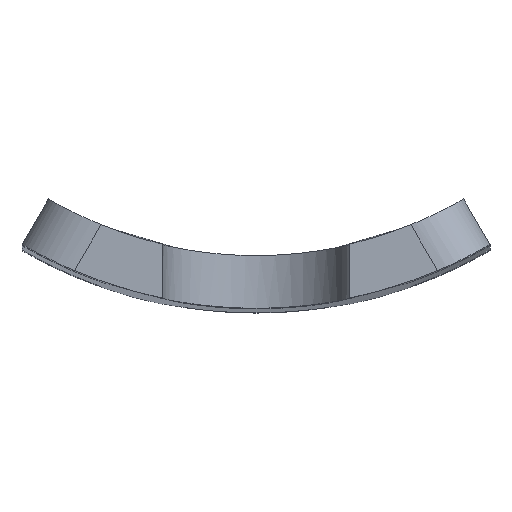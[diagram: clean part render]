
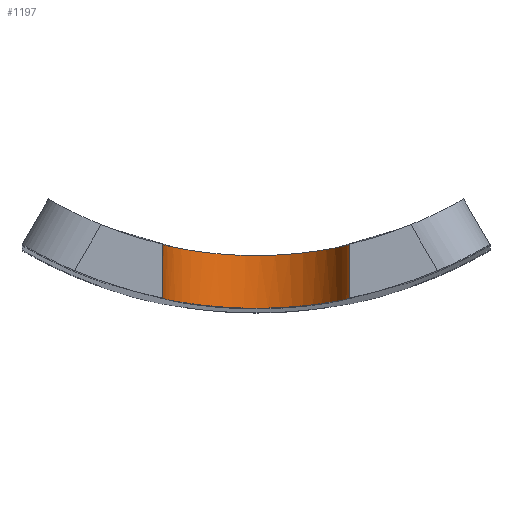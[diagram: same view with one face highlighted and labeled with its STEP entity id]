
A CAD part, top view. The second image highlights one B-rep face of the part: STEP entity #1197.
In plain terms, the highlighted cylindrical face has radius 16 mm (diameter 32 mm), a partial arc.
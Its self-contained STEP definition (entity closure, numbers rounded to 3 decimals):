
#149=FACE_OUTER_BOUND('',#213,.T.);
#213=EDGE_LOOP('',(#1098,#1099,#1100,#1101,#1102));
#300=LINE('',#2539,#386);
#301=LINE('',#2541,#387);
#386=VECTOR('',#1598,10.);
#387=VECTOR('',#1601,10.);
#411=B_SPLINE_CURVE_WITH_KNOTS('',3,(#1921,#1922,#1923,#1924,#1925,#1926,
#1927,#1928,#1929,#1930,#1931,#1932,#1933,#1934,#1935,#1936,#1937,#1938,
#1939,#1940,#1941,#1942,#1943,#1944,#1945,#1946,#1947,#1948,#1949,#1950,
#1951,#1952,#1953,#1954),.UNSPECIFIED.,.F.,.F.,(4,2,2,2,2,2,2,2,2,2,2,2,
2,2,2,2,4),(-4.84,-4.537,-4.235,-3.932,
-3.63,-3.327,-3.025,-2.722,
-2.42,-2.117,-1.815,-1.512,
-1.21,-0.908,-0.605,-0.303,
0.),.UNSPECIFIED.);
#435=B_SPLINE_CURVE_WITH_KNOTS('',3,(#2361,#2362,#2363,#2364,#2365,#2366,
#2367,#2368,#2369,#2370,#2371,#2372,#2373,#2374,#2375,#2376,#2377,#2378),
 .UNSPECIFIED.,.F.,.F.,(4,2,2,2,2,2,2,2,4),(0.,0.302,0.604,
0.907,1.209,1.511,1.813,2.116,
2.418),.UNSPECIFIED.);
#436=B_SPLINE_CURVE_WITH_KNOTS('',3,(#2380,#2381,#2382,#2383,#2384,#2385,
#2386,#2387,#2388,#2389,#2390,#2391,#2392,#2393,#2394,#2395,#2396,#2397),
 .UNSPECIFIED.,.F.,.F.,(4,2,2,2,2,2,2,2,4),(2.418,2.72,
3.022,3.325,3.627,3.929,4.231,
4.534,4.836),.UNSPECIFIED.);
#502=VERTEX_POINT('',#1918);
#503=VERTEX_POINT('',#1920);
#555=VERTEX_POINT('',#2358);
#556=VERTEX_POINT('',#2360);
#557=VERTEX_POINT('',#2379);
#628=EDGE_CURVE('',#502,#503,#411,.T.);
#728=EDGE_CURVE('',#555,#556,#435,.T.);
#729=EDGE_CURVE('',#556,#557,#436,.T.);
#748=EDGE_CURVE('',#555,#503,#300,.T.);
#749=EDGE_CURVE('',#557,#502,#301,.T.);
#1098=ORIENTED_EDGE('',*,*,#628,.F.);
#1099=ORIENTED_EDGE('',*,*,#749,.F.);
#1100=ORIENTED_EDGE('',*,*,#729,.F.);
#1101=ORIENTED_EDGE('',*,*,#728,.F.);
#1102=ORIENTED_EDGE('',*,*,#748,.T.);
#1140=CYLINDRICAL_SURFACE('',#1317,16.);
#1197=ADVANCED_FACE('',(#149),#1140,.F.);
#1317=AXIS2_PLACEMENT_3D('',#2540,#1599,#1600);
#1598=DIRECTION('',(0.,1.,0.));
#1599=DIRECTION('center_axis',(0.,1.,0.));
#1600=DIRECTION('ref_axis',(1.,0.,0.));
#1601=DIRECTION('',(0.,1.,0.));
#1918=CARTESIAN_POINT('',(5.5,-43.33,-53.));
#1920=CARTESIAN_POINT('',(37.5,-43.33,-53.));
#1921=CARTESIAN_POINT('Ctrl Pts',(5.5,-43.33,-53.));
#1922=CARTESIAN_POINT('Ctrl Pts',(5.5,-43.33,-54.008));
#1923=CARTESIAN_POINT('Ctrl Pts',(5.597,-43.353,-55.05));
#1924=CARTESIAN_POINT('Ctrl Pts',(6.004,-43.446,-57.12));
#1925=CARTESIAN_POINT('Ctrl Pts',(6.313,-43.516,-58.148));
#1926=CARTESIAN_POINT('Ctrl Pts',(7.131,-43.691,-60.118));
#1927=CARTESIAN_POINT('Ctrl Pts',(7.639,-43.797,-61.061));
#1928=CARTESIAN_POINT('Ctrl Pts',(8.813,-44.022,-62.805));
#1929=CARTESIAN_POINT('Ctrl Pts',(9.478,-44.141,-63.605));
#1930=CARTESIAN_POINT('Ctrl Pts',(10.895,-44.371,-65.022));
#1931=CARTESIAN_POINT('Ctrl Pts',(11.695,-44.49,-65.687));
#1932=CARTESIAN_POINT('Ctrl Pts',(13.439,-44.713,-66.861));
#1933=CARTESIAN_POINT('Ctrl Pts',(14.382,-44.817,-67.369));
#1934=CARTESIAN_POINT('Ctrl Pts',(16.352,-44.989,-68.187));
#1935=CARTESIAN_POINT('Ctrl Pts',(17.38,-45.057,-68.497));
#1936=CARTESIAN_POINT('Ctrl Pts',(19.45,-45.148,-68.903));
#1937=CARTESIAN_POINT('Ctrl Pts',(20.492,-45.17,-69.));
#1938=CARTESIAN_POINT('Ctrl Pts',(22.508,-45.17,-69.));
#1939=CARTESIAN_POINT('Ctrl Pts',(23.55,-45.148,-68.903));
#1940=CARTESIAN_POINT('Ctrl Pts',(25.62,-45.057,-68.497));
#1941=CARTESIAN_POINT('Ctrl Pts',(26.648,-44.989,-68.187));
#1942=CARTESIAN_POINT('Ctrl Pts',(28.618,-44.817,-67.369));
#1943=CARTESIAN_POINT('Ctrl Pts',(29.561,-44.713,-66.861));
#1944=CARTESIAN_POINT('Ctrl Pts',(31.305,-44.49,-65.687));
#1945=CARTESIAN_POINT('Ctrl Pts',(32.105,-44.371,-65.022));
#1946=CARTESIAN_POINT('Ctrl Pts',(33.522,-44.141,-63.605));
#1947=CARTESIAN_POINT('Ctrl Pts',(34.187,-44.022,-62.805));
#1948=CARTESIAN_POINT('Ctrl Pts',(35.361,-43.797,-61.061));
#1949=CARTESIAN_POINT('Ctrl Pts',(35.869,-43.691,-60.118));
#1950=CARTESIAN_POINT('Ctrl Pts',(36.687,-43.516,-58.148));
#1951=CARTESIAN_POINT('Ctrl Pts',(36.996,-43.446,-57.12));
#1952=CARTESIAN_POINT('Ctrl Pts',(37.403,-43.353,-55.05));
#1953=CARTESIAN_POINT('Ctrl Pts',(37.5,-43.33,-54.008));
#1954=CARTESIAN_POINT('Ctrl Pts',(37.5,-43.33,-53.));
#2358=CARTESIAN_POINT('',(37.5,-52.543,-53.));
#2360=CARTESIAN_POINT('',(21.5,-54.17,-69.));
#2361=CARTESIAN_POINT('Ctrl Pts',(37.5,-52.543,-53.));
#2362=CARTESIAN_POINT('Ctrl Pts',(37.5,-52.543,-54.007));
#2363=CARTESIAN_POINT('Ctrl Pts',(37.403,-52.563,-55.048));
#2364=CARTESIAN_POINT('Ctrl Pts',(36.997,-52.645,-57.117));
#2365=CARTESIAN_POINT('Ctrl Pts',(36.688,-52.707,-58.145));
#2366=CARTESIAN_POINT('Ctrl Pts',(35.87,-52.862,-60.116));
#2367=CARTESIAN_POINT('Ctrl Pts',(35.362,-52.955,-61.059));
#2368=CARTESIAN_POINT('Ctrl Pts',(34.188,-53.153,-62.804));
#2369=CARTESIAN_POINT('Ctrl Pts',(33.522,-53.259,-63.605));
#2370=CARTESIAN_POINT('Ctrl Pts',(32.105,-53.463,-65.022));
#2371=CARTESIAN_POINT('Ctrl Pts',(31.304,-53.568,-65.688));
#2372=CARTESIAN_POINT('Ctrl Pts',(29.56,-53.765,-66.862));
#2373=CARTESIAN_POINT('Ctrl Pts',(28.616,-53.857,-67.37));
#2374=CARTESIAN_POINT('Ctrl Pts',(26.645,-54.01,-68.188));
#2375=CARTESIAN_POINT('Ctrl Pts',(25.617,-54.07,-68.497));
#2376=CARTESIAN_POINT('Ctrl Pts',(23.548,-54.15,-68.903));
#2377=CARTESIAN_POINT('Ctrl Pts',(22.507,-54.17,-69.));
#2378=CARTESIAN_POINT('Ctrl Pts',(21.5,-54.17,-69.));
#2379=CARTESIAN_POINT('',(5.5,-52.543,-53.));
#2380=CARTESIAN_POINT('Ctrl Pts',(21.5,-54.17,-69.));
#2381=CARTESIAN_POINT('Ctrl Pts',(20.493,-54.17,-69.));
#2382=CARTESIAN_POINT('Ctrl Pts',(19.452,-54.15,-68.903));
#2383=CARTESIAN_POINT('Ctrl Pts',(17.383,-54.07,-68.497));
#2384=CARTESIAN_POINT('Ctrl Pts',(16.355,-54.01,-68.188));
#2385=CARTESIAN_POINT('Ctrl Pts',(14.384,-53.857,-67.37));
#2386=CARTESIAN_POINT('Ctrl Pts',(13.44,-53.765,-66.862));
#2387=CARTESIAN_POINT('Ctrl Pts',(11.696,-53.568,-65.688));
#2388=CARTESIAN_POINT('Ctrl Pts',(10.895,-53.463,-65.022));
#2389=CARTESIAN_POINT('Ctrl Pts',(9.478,-53.259,-63.605));
#2390=CARTESIAN_POINT('Ctrl Pts',(8.812,-53.153,-62.804));
#2391=CARTESIAN_POINT('Ctrl Pts',(7.638,-52.955,-61.059));
#2392=CARTESIAN_POINT('Ctrl Pts',(7.13,-52.862,-60.116));
#2393=CARTESIAN_POINT('Ctrl Pts',(6.312,-52.707,-58.145));
#2394=CARTESIAN_POINT('Ctrl Pts',(6.003,-52.645,-57.117));
#2395=CARTESIAN_POINT('Ctrl Pts',(5.597,-52.563,-55.048));
#2396=CARTESIAN_POINT('Ctrl Pts',(5.5,-52.543,-54.007));
#2397=CARTESIAN_POINT('Ctrl Pts',(5.5,-52.543,-53.));
#2539=CARTESIAN_POINT('',(37.5,-54.17,-53.));
#2540=CARTESIAN_POINT('Origin',(21.5,-54.17,-53.));
#2541=CARTESIAN_POINT('',(5.5,-54.17,-53.));
